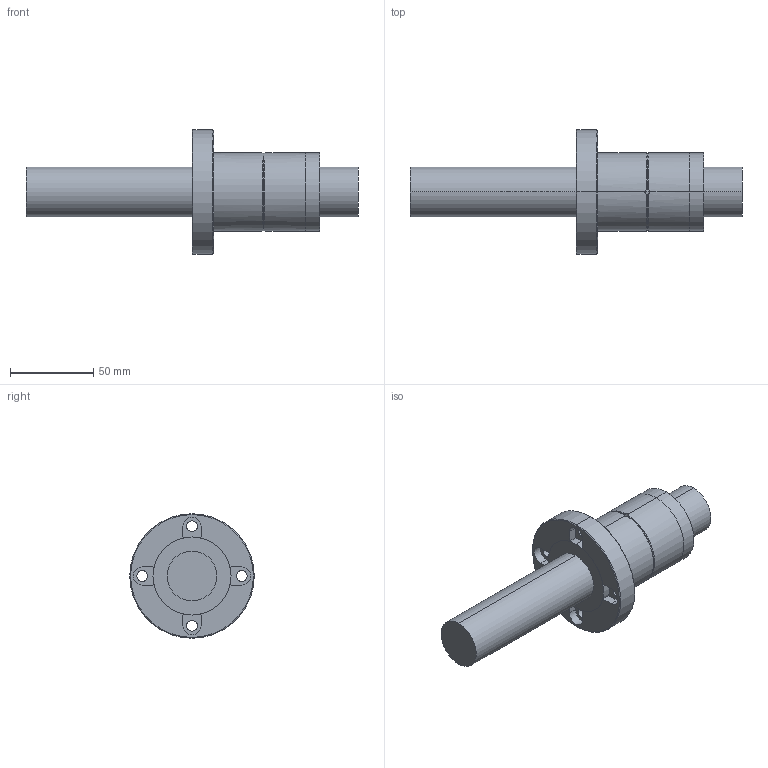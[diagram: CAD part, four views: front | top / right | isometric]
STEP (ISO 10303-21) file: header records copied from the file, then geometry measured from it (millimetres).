
FILE_DESCRIPTION (( 'STEP AP203' ), '1' );
FILE_NAME ('KLF030T4.STEP', '2023-08-17T07:28:17', ( '' ), ( '' ), 'SwSTEP 2.0', 'SolidWorks 2022', '' );
FILE_SCHEMA (( 'CONFIG_CONTROL_DESIGN' ));
Length unit declared in the file: millimetre
Products named in the file (5): 零件6^KLF030T4; 主体^KLF030T4; 塑胶1^KLF030T4; KLF030T4; 塑胶2^KLF030T4
Assembly tree (4 placements, depth 2):
  KLF030T4
    主体^KLF030T4
    塑胶1^KLF030T4
    塑胶2^KLF030T4
    零件6^KLF030T4
Bounding box: 200 x 75 x 75 mm (x, y, z)
Volume: 251690.5 mm3; surface area: 54884.9 mm2
Topology: 4 solids, 4 shells, 67 faces, 171 edges, 110 vertices
Faces by surface type: cylinder 37, plane 22, torus 4, cone 4
Entity records: 2776 total; most frequent: CARTESIAN_POINT 563, DIRECTION 379, ORIENTED_EDGE 342, EDGE_CURVE 171, AXIS2_PLACEMENT_3D 154, VERTEX_POINT 110, EDGE_LOOP 83, CIRCLE 80
